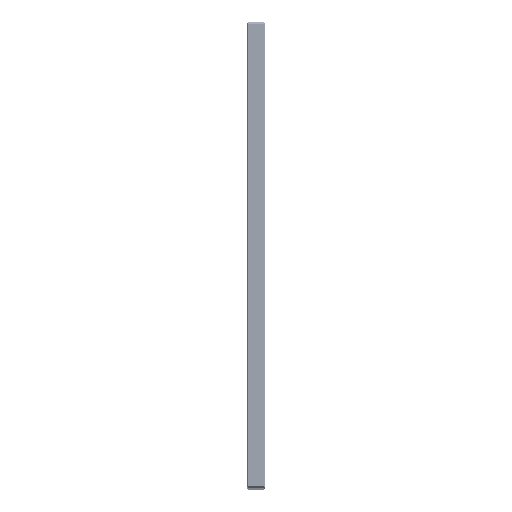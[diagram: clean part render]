
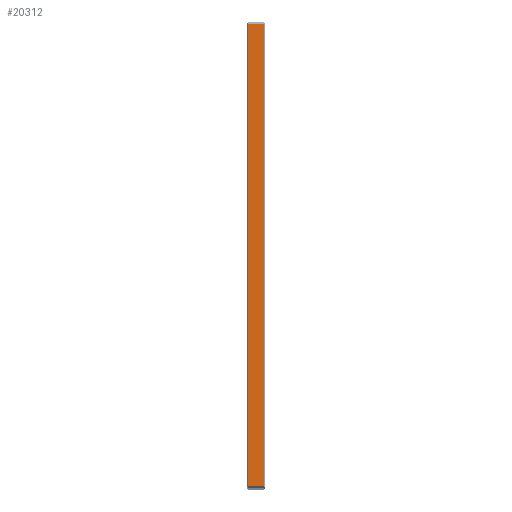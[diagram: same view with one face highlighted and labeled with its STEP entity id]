
A CAD part, top view. The second image highlights one B-rep face of the part: STEP entity #20312.
In plain terms, the highlighted planar face has unit normal (0, 0, 1).
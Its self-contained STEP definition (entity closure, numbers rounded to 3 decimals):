
#6178=FACE_OUTER_BOUND($,#8761,.T.);
#8761=EDGE_LOOP($,(#17179,#17180,#17181,#17182));
#11848=LINE($,#32741,#11888);
#11856=LINE($,#33782,#11896);
#11861=LINE($,#33792,#11901);
#11879=LINE($,#34852,#11919);
#11888=VECTOR($,#25478,13.);
#11896=VECTOR($,#26516,396.);
#11901=VECTOR($,#26523,13.);
#11919=VECTOR($,#27583,396.);
#11927=VERTEX_POINT($,#32738);
#11928=VERTEX_POINT($,#32740);
#12446=VERTEX_POINT($,#33780);
#12450=VERTEX_POINT($,#33790);
#14004=EDGE_CURVE($,#11927,#11928,#11848,.T.);
#14525=EDGE_CURVE($,#12446,#11927,#11856,.T.);
#14530=EDGE_CURVE($,#12450,#12446,#11861,.T.);
#15061=EDGE_CURVE($,#11928,#12450,#11879,.T.);
#17179=ORIENTED_EDGE($,*,*,#14525,.F.);
#17180=ORIENTED_EDGE($,*,*,#14530,.F.);
#17181=ORIENTED_EDGE($,*,*,#15061,.F.);
#17182=ORIENTED_EDGE($,*,*,#14004,.F.);
#20289=PLANE($,#22898);
#20312=ADVANCED_FACE($,(#6178),#20289,.T.);
#22898=AXIS2_PLACEMENT_3D($,#34857,#27588,#27589);
#25478=DIRECTION($,(1.,0.,0.));
#26516=DIRECTION($,(0.,1.,0.));
#26523=DIRECTION($,(-1.,0.,0.));
#27583=DIRECTION($,(0.,-1.,0.));
#27588=DIRECTION('center_axis',(0.,0.,1.));
#27589=DIRECTION('ref_axis',(0.,-1.,0.));
#32738=CARTESIAN_POINT('',(1.,398.,800.));
#32740=CARTESIAN_POINT('',(14.,398.,800.));
#32741=CARTESIAN_POINT($,(0.,398.,800.));
#33780=CARTESIAN_POINT('',(1.,2.,800.));
#33782=CARTESIAN_POINT($,(1.,300.,800.));
#33790=CARTESIAN_POINT('',(14.,2.,800.));
#33792=CARTESIAN_POINT($,(0.,2.,800.));
#34852=CARTESIAN_POINT($,(14.,300.,800.));
#34857=CARTESIAN_POINT('Origin',(0.,400.,800.));
